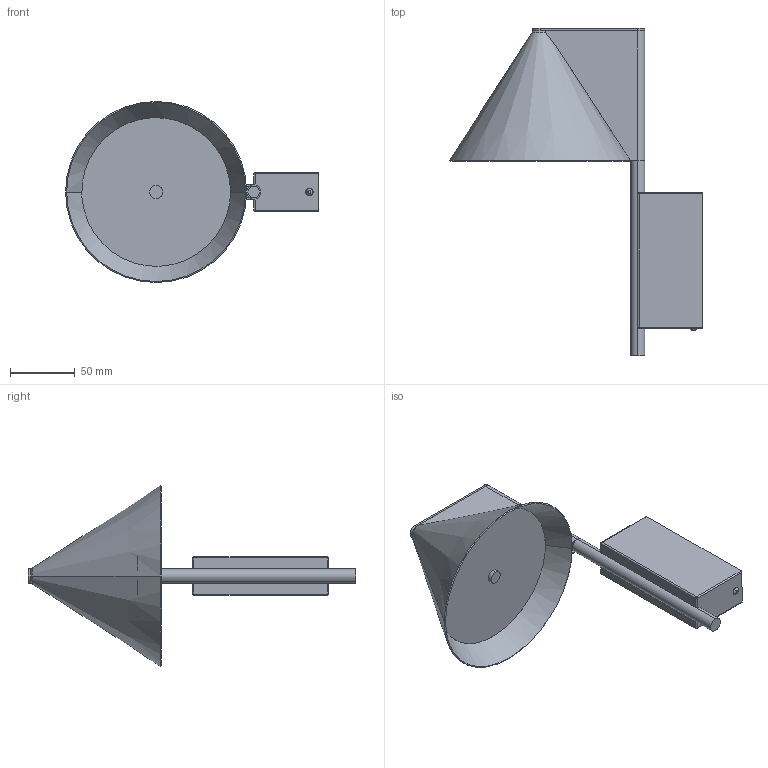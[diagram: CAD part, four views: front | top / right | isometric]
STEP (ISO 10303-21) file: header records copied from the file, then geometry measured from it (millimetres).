
FILE_DESCRIPTION (( 'STEP AP203' ), '1' );
FILE_NAME ('El_Torrent_Vela_VL.WB014_pendant.STEP', '2026-10-01T10:24:23', ( '' ), ( '' ), 'SwSTEP 2.0', 'SolidWorks 2013', '' );
FILE_SCHEMA (( 'CONFIG_CONTROL_DESIGN' ));
Length unit declared in the file: millimetre
Products named in the file (13): ME041.04_passamà soldat a ala 2T M3; El_Torrent_Vela_VL.WB014_pendant; ME042.01_Metal shade Ø140x100xØ11; ME058.02_Suport fixat a tub aplic; TC181_PMMA diffuser Ø113x3; ME041.05_Xapa superior ala 86.5x11 1P M4; ME045_Cargol fixació difusor; ME058_Structure wall lamp_road+wing; ME058.01_tub Ø11x150; ME041.01_Ala amb peces soldades; DIN7380 M3x6; ME059_Suport aplic_103x23mm_Xapa 1,2mm; ME041.01_Ala estructura taula
Assembly tree (12 placements, depth 4):
  El_Torrent_Vela_VL.WB014_pendant
    ME058_Structure wall lamp_road+wing
      ME058.01_tub Ø11x150
      ME041.01_Ala amb peces soldades
        ME041.01_Ala estructura taula
        ME041.04_passamà soldat a ala 2T M3
        ME041.05_Xapa superior ala 86.5x11 1P M4
      ME058.02_Suport fixat a tub aplic
    ME042.01_Metal shade Ø140x100xØ11
    TC181_PMMA diffuser Ø113x3
    ME045_Cargol fixació difusor
    ME059_Suport aplic_103x23mm_Xapa 1,2mm
    DIN7380 M3x6
Bounding box: 195.5 x 253 x 140 mm (x, y, z)
Volume: 95376.7 mm3; surface area: 148343.7 mm2
Topology: 11 solids, 11 shells, 196 faces, 460 edges, 284 vertices
Faces by surface type: plane 95, cylinder 71, cone 18, torus 6, sphere 4, bspline 2
Entity records: 7677 total; most frequent: CARTESIAN_POINT 1703, DIRECTION 1006, ORIENTED_EDGE 912, EDGE_CURVE 456, AXIS2_PLACEMENT_3D 375, VERTEX_POINT 284, VECTOR 256, LINE 256
